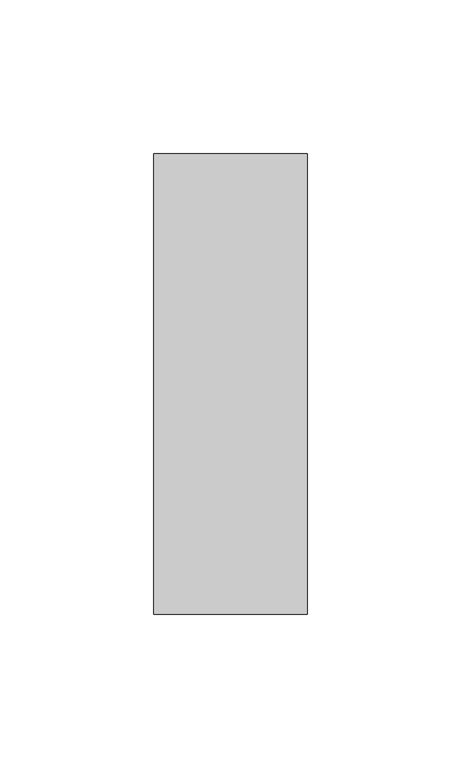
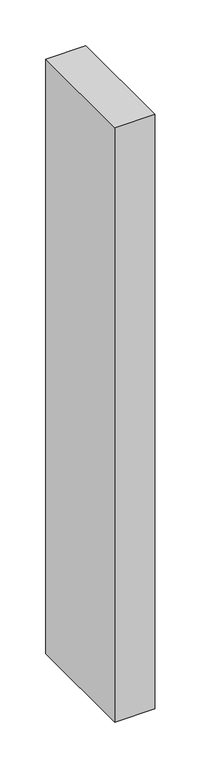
"""IFC4 building model written with IfcOpenShell, lengths in millimetres: member geometry, Прямоугольный импост : 50 x 150 мм."""

import ifcopenshell
import ifcopenshell.guid

model = None  # the IFC model being written
_history = None  # IfcOwnerHistory: only IFC2X3 demands one
_inside = {}  # id of a spatial element -> (the spatial element, [elements in it])
_under = {}  # id of a project, library or spatial element -> (it, [spatial elements below it])
_declared = {}  # id of a project -> (the project, [libraries it declares])
_typed = {}  # id of a type object -> (the type object, [elements of that type])
_made_of = {}  # id of a material, layer set ... -> (it, [elements and type objects made of it])


def new_model(schema):
    """Start an empty IFC model of exactly this schema.

    Asked for "IFC4X3", IfcOpenShell would pick the latest addendum, in which some entities
    have other attributes; the version numbers below select the first issue.
    IFC2X3 requires an IfcOwnerHistory on every rooted entity: one is made here for all.
    """
    global model, _history
    if schema == "IFC4X3":
        model = ifcopenshell.file(schema_version=(4, 3, 0, 0))
    else:
        model = ifcopenshell.file(schema=schema)
    _inside.clear()
    _under.clear()
    _declared.clear()
    _typed.clear()
    _made_of.clear()
    _history = None
    if model.schema == "IFC2X3":
        org = make("IfcOrganization", Name="unknown")
        user = make(
            "IfcPersonAndOrganization",
            ThePerson=make("IfcPerson", FamilyName="unknown"),
            TheOrganization=org,
        )
        app = make(
            "IfcApplication",
            ApplicationDeveloper=org,
            Version="unknown",
            ApplicationFullName="unknown",
            ApplicationIdentifier="unknown",
        )
        _history = make(
            "IfcOwnerHistory",
            OwningUser=user,
            OwningApplication=app,
            ChangeAction="ADDED",
            CreationDate=0,
        )
    return model


def make(cls, **values):
    """One entity of the class cls with the attributes given. An attribute that is None is left unset."""
    return model.create_entity(
        cls, **{name: value for name, value in values.items() if value is not None}
    )


def rooted(cls, **values):
    """An entity with a GlobalId (a new one), such as an element, a storey or a relation."""
    return make(cls, GlobalId=ifcopenshell.guid.new(), OwnerHistory=_history, **values)


def si_unit(unit_type, name, prefix=None):
    """IfcSIUnit, for example si_unit("LENGTHUNIT", "METRE", prefix="MILLI")."""
    return make("IfcSIUnit", UnitType=unit_type, Prefix=prefix, Name=name)


def assignment(units):
    """IfcUnitAssignment: the units of a project."""
    return None if units is None else make("IfcUnitAssignment", Units=units)


def point(xyz):
    """IfcCartesianPoint."""
    return None if xyz is None else make("IfcCartesianPoint", Coordinates=xyz)


def direction(xyz):
    """IfcDirection."""
    return None if xyz is None else make("IfcDirection", DirectionRatios=xyz)


def frame(location, z_axis=None, x_axis=None):
    """IfcAxis2Placement3D, a coordinate frame: its origin and axes. An axis left out is left unset."""
    return make(
        "IfcAxis2Placement3D",
        Location=point(location),
        Axis=direction(z_axis),
        RefDirection=direction(x_axis),
    )


def origin():
    """The frame at (0, 0, 0) with its axes left unset."""
    return frame((0.0, 0.0, 0.0))


def place(relative_to, where):
    """IfcLocalPlacement: puts the frame where relative to a parent placement (None: the world)."""
    return make(
        "IfcLocalPlacement", PlacementRelTo=relative_to, RelativePlacement=where
    )


def context(
    kind, dimensions, precision=None, world=None, true_north=None, identifier=None
):
    """IfcGeometricRepresentationContext, for example the 3D "Model" context."""
    return make(
        "IfcGeometricRepresentationContext",
        ContextIdentifier=identifier,
        ContextType=kind,
        CoordinateSpaceDimension=dimensions,
        Precision=precision,
        WorldCoordinateSystem=world,
        TrueNorth=true_north,
    )


def project(units=None, contexts=None):
    """IfcProject with its units and contexts."""
    return rooted(
        "IfcProject",
        Name="project",
        RepresentationContexts=contexts,
        UnitsInContext=assignment(units),
    )


def spatial(cls, under=None, at=None, **own):
    """A site, building, storey or space (cls), placed at a placement, below another one or the project."""
    s = rooted(cls, ObjectPlacement=at, **own)
    if under is not None:
        _under.setdefault(under.id(), (under, []))[1].append(s)
    return s


def polyline(points):
    """IfcPolyline through the points."""
    return make("IfcPolyline", Points=[point(p) for p in points])


def outline(outer, holes=None, kind="AREA"):
    """IfcArbitraryClosedProfileDef: a profile drawn as a closed curve; with holes, ...WithVoids."""
    if holes is None:
        return make("IfcArbitraryClosedProfileDef", ProfileType=kind, OuterCurve=outer)
    return make(
        "IfcArbitraryProfileDefWithVoids",
        ProfileType=kind,
        OuterCurve=outer,
        InnerCurves=holes,
    )


def extrude(swept, where, along, depth):
    """IfcExtrudedAreaSolid: the profile swept, set in the frame where, extruded along a direction by depth."""
    return make(
        "IfcExtrudedAreaSolid",
        SweptArea=swept,
        Position=where,
        ExtrudedDirection=direction(along),
        Depth=depth,
    )


def shape(context_of_items, identifier, shape_type, items):
    """IfcShapeRepresentation: the items that make up one representation, for example the "Body"."""
    return make(
        "IfcShapeRepresentation",
        ContextOfItems=context_of_items,
        RepresentationIdentifier=identifier,
        RepresentationType=shape_type,
        Items=items,
    )


def source(mapping_origin, context_of_items, identifier, shape_type, items):
    """IfcRepresentationMap: a shape defined once, which mapped items show again and again."""
    return make(
        "IfcRepresentationMap",
        MappingOrigin=mapping_origin,
        MappedRepresentation=shape(context_of_items, identifier, shape_type, items),
    )


def transform(
    local_origin,
    x_axis=None,
    y_axis=None,
    z_axis=None,
    scale=None,
    scale2=None,
    scale3=None,
    uniform=True,
):
    """IfcCartesianTransformationOperator3D, or its non-uniform kind. x_axis, y_axis, z_axis: its Axis1, 2, 3."""
    if uniform:
        return make(
            "IfcCartesianTransformationOperator3D",
            Axis1=direction(x_axis),
            Axis2=direction(y_axis),
            LocalOrigin=point(local_origin),
            Scale=scale,
            Axis3=direction(z_axis),
        )
    return make(
        "IfcCartesianTransformationOperator3DnonUniform",
        Axis1=direction(x_axis),
        Axis2=direction(y_axis),
        LocalOrigin=point(local_origin),
        Scale=scale,
        Axis3=direction(z_axis),
        Scale2=scale2,
        Scale3=scale3,
    )


def mapped(mapping_source, mapping_target):
    """IfcMappedItem: shows the shape of a source again, moved by a transform."""
    return make(
        "IfcMappedItem", MappingSource=mapping_source, MappingTarget=mapping_target
    )


def made_of(thing, what):
    """Note that an element or type object is made of a material, layer set ...; save() writes the relation."""
    if what is not None:
        _made_of.setdefault(what.id(), (what, []))[1].append(thing)
    return thing


def element(
    cls,
    number,
    at=None,
    inside=None,
    cuts=None,
    type_object=None,
    material=None,
    context=None,
    identifier="Body",
    shape_type=None,
    held_by="IfcProductDefinitionShape",
    body=None,
    shapes=None,
    **own,
):
    """One element of the class cls, such as IfcWall. Its Tag is "e" and its number.

    at: its placement. inside: the storey or other place that contains it. cuts: it is an
    opening in that element (IfcRelVoidsElement). A single representation is given by context,
    identifier, shape_type and body (its items); several are given by shapes. held_by: the class
    of the entity that holds the representations. save() writes the other relations.
    """
    e = rooted(cls, Tag="e%d" % number, ObjectPlacement=at, **own)
    if body is not None:
        shapes = [shape(context, identifier, shape_type, body)]
    if shapes is not None:
        e.Representation = make(held_by, Representations=shapes)
    if inside is not None:
        _inside.setdefault(inside.id(), (inside, []))[1].append(e)
    if cuts is not None:
        rooted(
            "IfcRelVoidsElement", RelatingBuildingElement=cuts, RelatedOpeningElement=e
        )
    if type_object is not None:
        _typed.setdefault(type_object.id(), (type_object, []))[1].append(e)
    return made_of(e, material)


def aggregate(whole, parts):
    """IfcRelAggregates: a whole, such as a stair, and the parts it consists of."""
    return rooted("IfcRelAggregates", RelatingObject=whole, RelatedObjects=parts)


def save(model, path):
    """Write the relations noted so far, then the file.

    IfcRelAggregates (storeys below a building ...), IfcRelContainedInSpatialStructure (elements
    in a storey), IfcRelDefinesByType, IfcRelAssociatesMaterial and IfcRelDeclares: one each for
    every whole, place, type object, material and project.
    """
    for whole, parts in _under.values():
        aggregate(whole, parts)
    for where, things in _inside.values():
        rooted(
            "IfcRelContainedInSpatialStructure",
            RelatedElements=things,
            RelatingStructure=where,
        )
    for kind, things in _typed.values():
        rooted("IfcRelDefinesByType", RelatedObjects=things, RelatingType=kind)
    for what, things in _made_of.values():
        rooted("IfcRelAssociatesMaterial", RelatedObjects=things, RelatingMaterial=what)
    for by, libraries in _declared.values():
        rooted("IfcRelDeclares", RelatingContext=by, RelatedDefinitions=libraries)
    model.write(path)


def member_0e7f73eb(model_context):
    return source(origin(), model_context, "Body", "SweptSolid", [
        extrude(outline(polyline([(25.0, 75.0), (25.0, -75.0), (-25.0, -75.0), (-25.0, 75.0), (25.0, 75.0)])), frame((0.0, 0.0, -789.4668689), z_axis=(0.0, 0.0, 1.0), x_axis=(1.0, 0.0, 0.0)), (0.0, 0.0, 1.0), 789.4668689),
    ])


if __name__ == "__main__":
    model = new_model("IFC4")
    model_context = context("Model", 3, world=origin())
    ifc_project = project(units=[si_unit("LENGTHUNIT", "METRE", prefix="MILLI")], contexts=[model_context])
    site = spatial("IfcSite", under=ifc_project)
    building = spatial("IfcBuilding", under=site)
    placement = place(None, origin())
    member_shape = member_0e7f73eb(model_context)
    element("IfcMember", 1, ObjectType="Прямоугольный импост : 50 x 150 мм", at=placement, inside=building, context=model_context, shape_type="MappedRepresentation", body=[
        mapped(member_shape, transform((0.0, 0.0, 0.0), x_axis=(1.0, 0.0, 0.0), y_axis=(0.0, 1.0, 0.0), z_axis=(0.0, 0.0, 1.0))),
    ])
    save(model, "model.ifc")
